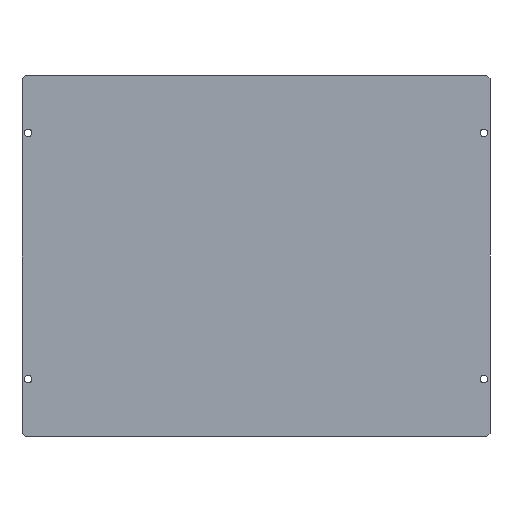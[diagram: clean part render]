
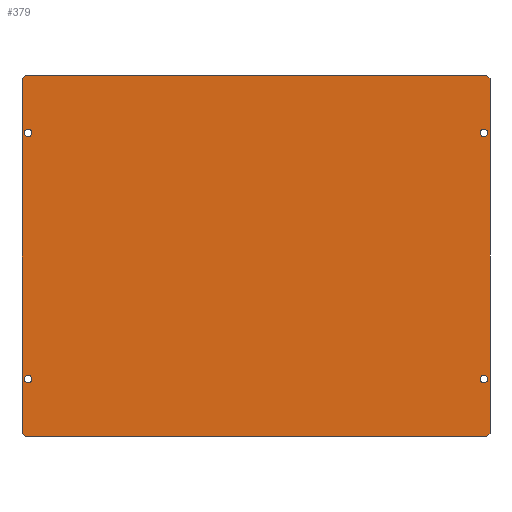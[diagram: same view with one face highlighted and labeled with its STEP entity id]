
A CAD part, front view. The second image highlights one B-rep face of the part: STEP entity #379.
In plain terms, the highlighted planar face has unit normal (0, -1, 0).
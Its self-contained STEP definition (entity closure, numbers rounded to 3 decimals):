
#5 = DIRECTION ( 'NONE',  ( 0., 1., 0. ) ) ;
#7 = CARTESIAN_POINT ( 'NONE',  ( 74., 0., -40. ) ) ;
#9 = LINE ( 'NONE', #242, #294 ) ;
#13 = AXIS2_PLACEMENT_3D ( 'NONE', #84, #201, #189 ) ;
#22 = CIRCLE ( 'NONE', #168, 1.2 ) ;
#29 = AXIS2_PLACEMENT_3D ( 'NONE', #394, #460, #644 ) ;
#35 = PLANE ( 'NONE',  #29 ) ;
#40 = ORIENTED_EDGE ( 'NONE', *, *, #47, .T. ) ;
#41 = CARTESIAN_POINT ( 'NONE',  ( -76., 0., 58.5 ) ) ;
#44 = ORIENTED_EDGE ( 'NONE', *, *, #298, .T. ) ;
#47 = EDGE_CURVE ( 'NONE', #542, #778, #9, .T. ) ;
#53 = CIRCLE ( 'NONE', #176, 1.2 ) ;
#63 = ORIENTED_EDGE ( 'NONE', *, *, #114, .T. ) ;
#67 = DIRECTION ( 'NONE',  ( -0.707, 0., -0.707 ) ) ;
#68 = LINE ( 'NONE', #203, #629 ) ;
#73 = DIRECTION ( 'NONE',  ( 0., 0., 1. ) ) ;
#74 = DIRECTION ( 'NONE',  ( 0., 0., 1. ) ) ;
#78 = LINE ( 'NONE', #677, #533 ) ;
#84 = CARTESIAN_POINT ( 'NONE',  ( -74., 0., 40. ) ) ;
#88 = VERTEX_POINT ( 'NONE', #184 ) ;
#95 = CARTESIAN_POINT ( 'NONE',  ( 76., 0., 57.5 ) ) ;
#97 = CIRCLE ( 'NONE', #369, 1.2 ) ;
#100 = EDGE_CURVE ( 'NONE', #765, #182, #721, .T. ) ;
#102 = DIRECTION ( 'NONE',  ( 0., 1., 0. ) ) ;
#103 = CARTESIAN_POINT ( 'NONE',  ( -75., 0., 58.5 ) ) ;
#111 = ORIENTED_EDGE ( 'NONE', *, *, #452, .T. ) ;
#114 = EDGE_CURVE ( 'NONE', #654, #659, #97, .T. ) ;
#123 = EDGE_CURVE ( 'NONE', #765, #322, #78, .T. ) ;
#124 = VECTOR ( 'NONE', #355, 1000. ) ;
#125 = CIRCLE ( 'NONE', #246, 1.2 ) ;
#127 = VERTEX_POINT ( 'NONE', #497 ) ;
#130 = CARTESIAN_POINT ( 'NONE',  ( 74., 0., 38.8 ) ) ;
#147 = DIRECTION ( 'NONE',  ( 0., 0., 1. ) ) ;
#149 = CARTESIAN_POINT ( 'NONE',  ( 75., 0., 58.5 ) ) ;
#151 = FACE_OUTER_BOUND ( 'NONE', #464, .T. ) ;
#154 = CARTESIAN_POINT ( 'NONE',  ( 75., 0., -58.5 ) ) ;
#155 = DIRECTION ( 'NONE',  ( 0.707, 0., -0.707 ) ) ;
#158 = DIRECTION ( 'NONE',  ( 0., 0., -1. ) ) ;
#160 = CARTESIAN_POINT ( 'NONE',  ( 74., 0., 41.2 ) ) ;
#168 = AXIS2_PLACEMENT_3D ( 'NONE', #296, #356, #423 ) ;
#176 = AXIS2_PLACEMENT_3D ( 'NONE', #456, #453, #147 ) ;
#181 = EDGE_LOOP ( 'NONE', ( #44, #305 ) ) ;
#182 = VERTEX_POINT ( 'NONE', #560 ) ;
#184 = CARTESIAN_POINT ( 'NONE',  ( -74., 0., 41.2 ) ) ;
#189 = DIRECTION ( 'NONE',  ( 0., 0., 1. ) ) ;
#201 = DIRECTION ( 'NONE',  ( 0., 1., 0. ) ) ;
#203 = CARTESIAN_POINT ( 'NONE',  ( 76., 0., -58.5 ) ) ;
#204 = LINE ( 'NONE', #95, #124 ) ;
#208 = CARTESIAN_POINT ( 'NONE',  ( -76., 0., 57.5 ) ) ;
#209 = ORIENTED_EDGE ( 'NONE', *, *, #628, .T. ) ;
#212 = DIRECTION ( 'NONE',  ( 0., 1., 0. ) ) ;
#238 = ORIENTED_EDGE ( 'NONE', *, *, #100, .F. ) ;
#242 = CARTESIAN_POINT ( 'NONE',  ( -75., 0., 58.5 ) ) ;
#243 = VECTOR ( 'NONE', #74, 1000. ) ;
#246 = AXIS2_PLACEMENT_3D ( 'NONE', #634, #571, #627 ) ;
#257 = EDGE_CURVE ( 'NONE', #127, #778, #411, .T. ) ;
#263 = LINE ( 'NONE', #41, #620 ) ;
#265 = EDGE_LOOP ( 'NONE', ( #473, #209 ) ) ;
#280 = DIRECTION ( 'NONE',  ( 0., 0., 1. ) ) ;
#282 = LINE ( 'NONE', #527, #587 ) ;
#294 = VECTOR ( 'NONE', #67, 1000. ) ;
#296 = CARTESIAN_POINT ( 'NONE',  ( -74., 0., -40. ) ) ;
#298 = EDGE_CURVE ( 'NONE', #88, #675, #125, .T. ) ;
#305 = ORIENTED_EDGE ( 'NONE', *, *, #667, .T. ) ;
#308 = DIRECTION ( 'NONE',  ( 0.707, 0., 0.707 ) ) ;
#309 = DIRECTION ( 'NONE',  ( -1., 0., 0. ) ) ;
#318 = EDGE_LOOP ( 'NONE', ( #63, #591 ) ) ;
#322 = VERTEX_POINT ( 'NONE', #513 ) ;
#324 = DIRECTION ( 'NONE',  ( 0., 0., 1. ) ) ;
#330 = ORIENTED_EDGE ( 'NONE', *, *, #707, .T. ) ;
#343 = ORIENTED_EDGE ( 'NONE', *, *, #257, .F. ) ;
#355 = DIRECTION ( 'NONE',  ( -0.707, 0., 0.707 ) ) ;
#356 = DIRECTION ( 'NONE',  ( 0., 1., 0. ) ) ;
#366 = CIRCLE ( 'NONE', #770, 1.2 ) ;
#369 = AXIS2_PLACEMENT_3D ( 'NONE', #7, #5, #73 ) ;
#376 = EDGE_LOOP ( 'NONE', ( #589, #111 ) ) ;
#379 = ADVANCED_FACE ( 'NONE', ( #711, #743, #499, #481, #151 ), #35, .F. ) ;
#384 = CARTESIAN_POINT ( 'NONE',  ( 74., 0., -38.8 ) ) ;
#389 = CARTESIAN_POINT ( 'NONE',  ( 74., 0., 40. ) ) ;
#393 = AXIS2_PLACEMENT_3D ( 'NONE', #698, #102, #280 ) ;
#394 = CARTESIAN_POINT ( 'NONE',  ( -76., 0., 58.5 ) ) ;
#400 = VERTEX_POINT ( 'NONE', #515 ) ;
#411 = LINE ( 'NONE', #732, #243 ) ;
#416 = EDGE_CURVE ( 'NONE', #659, #654, #53, .T. ) ;
#423 = DIRECTION ( 'NONE',  ( 0., 0., 1. ) ) ;
#438 = ORIENTED_EDGE ( 'NONE', *, *, #123, .T. ) ;
#441 = VERTEX_POINT ( 'NONE', #149 ) ;
#450 = CARTESIAN_POINT ( 'NONE',  ( 74., 0., -41.2 ) ) ;
#452 = EDGE_CURVE ( 'NONE', #704, #747, #783, .T. ) ;
#453 = DIRECTION ( 'NONE',  ( 0., 1., 0. ) ) ;
#455 = AXIS2_PLACEMENT_3D ( 'NONE', #768, #212, #324 ) ;
#456 = CARTESIAN_POINT ( 'NONE',  ( 74., 0., -40. ) ) ;
#460 = DIRECTION ( 'NONE',  ( 0., 1., 0. ) ) ;
#464 = EDGE_LOOP ( 'NONE', ( #777, #330, #786, #40, #343, #689, #238, #438 ) ) ;
#466 = DIRECTION ( 'NONE',  ( 1., 0., 0. ) ) ;
#470 = EDGE_CURVE ( 'NONE', #127, #182, #282, .T. ) ;
#473 = ORIENTED_EDGE ( 'NONE', *, *, #582, .T. ) ;
#479 = CIRCLE ( 'NONE', #455, 1.2 ) ;
#481 = FACE_BOUND ( 'NONE', #318, .T. ) ;
#488 = EDGE_CURVE ( 'NONE', #542, #441, #263, .T. ) ;
#490 = CIRCLE ( 'NONE', #13, 1.2 ) ;
#497 = CARTESIAN_POINT ( 'NONE',  ( -76., 0., -57.5 ) ) ;
#499 = FACE_BOUND ( 'NONE', #376, .T. ) ;
#513 = CARTESIAN_POINT ( 'NONE',  ( 76., 0., -57.5 ) ) ;
#515 = CARTESIAN_POINT ( 'NONE',  ( 76., 0., 57.5 ) ) ;
#525 = CARTESIAN_POINT ( 'NONE',  ( -74., 0., -38.8 ) ) ;
#527 = CARTESIAN_POINT ( 'NONE',  ( -76., 0., -57.5 ) ) ;
#533 = VECTOR ( 'NONE', #308, 1000. ) ;
#542 = VERTEX_POINT ( 'NONE', #103 ) ;
#556 = CARTESIAN_POINT ( 'NONE',  ( -76., 0., -58.5 ) ) ;
#560 = CARTESIAN_POINT ( 'NONE',  ( -75., 0., -58.5 ) ) ;
#567 = VECTOR ( 'NONE', #309, 1000. ) ;
#571 = DIRECTION ( 'NONE',  ( 0., 1., 0. ) ) ;
#575 = VERTEX_POINT ( 'NONE', #780 ) ;
#582 = EDGE_CURVE ( 'NONE', #621, #575, #22, .T. ) ;
#587 = VECTOR ( 'NONE', #155, 1000. ) ;
#589 = ORIENTED_EDGE ( 'NONE', *, *, #660, .T. ) ;
#591 = ORIENTED_EDGE ( 'NONE', *, *, #416, .T. ) ;
#620 = VECTOR ( 'NONE', #466, 1000. ) ;
#621 = VERTEX_POINT ( 'NONE', #525 ) ;
#627 = DIRECTION ( 'NONE',  ( 0., 0., 1. ) ) ;
#628 = EDGE_CURVE ( 'NONE', #575, #621, #479, .T. ) ;
#629 = VECTOR ( 'NONE', #158, 1000. ) ;
#634 = CARTESIAN_POINT ( 'NONE',  ( -74., 0., 40. ) ) ;
#635 = DIRECTION ( 'NONE',  ( 0., 1., 0. ) ) ;
#644 = DIRECTION ( 'NONE',  ( 0., 0., 1. ) ) ;
#654 = VERTEX_POINT ( 'NONE', #384 ) ;
#659 = VERTEX_POINT ( 'NONE', #450 ) ;
#660 = EDGE_CURVE ( 'NONE', #747, #704, #366, .T. ) ;
#667 = EDGE_CURVE ( 'NONE', #675, #88, #490, .T. ) ;
#675 = VERTEX_POINT ( 'NONE', #759 ) ;
#677 = CARTESIAN_POINT ( 'NONE',  ( 75., 0., -58.5 ) ) ;
#689 = ORIENTED_EDGE ( 'NONE', *, *, #470, .T. ) ;
#691 = EDGE_CURVE ( 'NONE', #400, #322, #68, .T. ) ;
#698 = CARTESIAN_POINT ( 'NONE',  ( 74., 0., 40. ) ) ;
#704 = VERTEX_POINT ( 'NONE', #130 ) ;
#707 = EDGE_CURVE ( 'NONE', #400, #441, #204, .T. ) ;
#711 = FACE_BOUND ( 'NONE', #265, .T. ) ;
#721 = LINE ( 'NONE', #556, #567 ) ;
#732 = CARTESIAN_POINT ( 'NONE',  ( -76., 0., -58.5 ) ) ;
#743 = FACE_BOUND ( 'NONE', #181, .T. ) ;
#747 = VERTEX_POINT ( 'NONE', #160 ) ;
#753 = DIRECTION ( 'NONE',  ( 0., 0., 1. ) ) ;
#759 = CARTESIAN_POINT ( 'NONE',  ( -74., 0., 38.8 ) ) ;
#765 = VERTEX_POINT ( 'NONE', #154 ) ;
#768 = CARTESIAN_POINT ( 'NONE',  ( -74., 0., -40. ) ) ;
#770 = AXIS2_PLACEMENT_3D ( 'NONE', #389, #635, #753 ) ;
#777 = ORIENTED_EDGE ( 'NONE', *, *, #691, .F. ) ;
#778 = VERTEX_POINT ( 'NONE', #208 ) ;
#780 = CARTESIAN_POINT ( 'NONE',  ( -74., 0., -41.2 ) ) ;
#783 = CIRCLE ( 'NONE', #393, 1.2 ) ;
#786 = ORIENTED_EDGE ( 'NONE', *, *, #488, .F. ) ;
